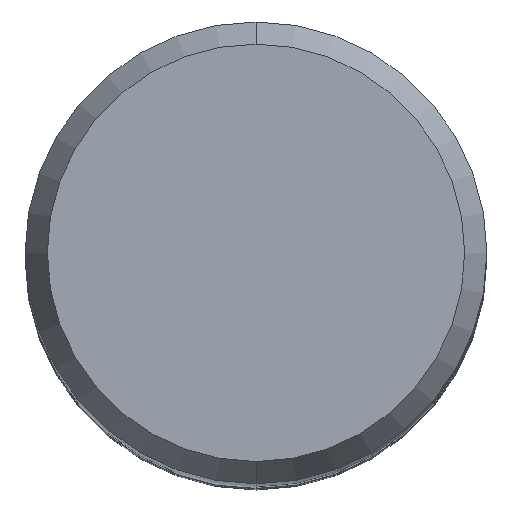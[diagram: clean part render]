
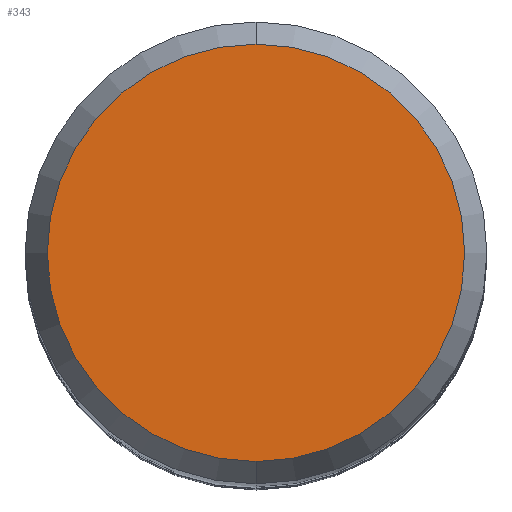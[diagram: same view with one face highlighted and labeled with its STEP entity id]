
A CAD part, top view. The second image highlights one B-rep face of the part: STEP entity #343.
In plain terms, the highlighted planar face has unit normal (0, 0, 1).
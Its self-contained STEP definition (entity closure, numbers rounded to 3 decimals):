
#343=ADVANCED_FACE('',(#766),#767,.T.);
#363=EDGE_CURVE('',#379,#469,#788,.T.);
#379=VERTEX_POINT('',#804);
#469=VERTEX_POINT('',#905);
#519=EDGE_CURVE('',#469,#379,#961,.T.);
#766=FACE_OUTER_BOUND('',#1304,.T.);
#767=PLANE('',#1305);
#788=CIRCLE('',#1357,5.423);
#804=CARTESIAN_POINT('',(0.0,5.423,0.0));
#905=CARTESIAN_POINT('',(0.,-5.423,0.0));
#961=CIRCLE('',#1669,5.423);
#1304=EDGE_LOOP('',(#2072,#2073));
#1305=AXIS2_PLACEMENT_3D('',#2074,#2075,#2076);
#1357=AXIS2_PLACEMENT_3D('',#2093,#2094,#2095);
#1669=AXIS2_PLACEMENT_3D('',#2301,#2302,#2303);
#2072=ORIENTED_EDGE('',*,*,#363,.F.);
#2073=ORIENTED_EDGE('',*,*,#519,.F.);
#2074=CARTESIAN_POINT('',(0.0,2.711,0.0));
#2075=DIRECTION('',(-0.0,0.0,1.0));
#2076=DIRECTION('',(0.0,-1.0,0.0));
#2093=CARTESIAN_POINT('',(0.0,0.0,0.0));
#2094=DIRECTION('',(0.0,0.0,-1.0));
#2095=DIRECTION('',(0.0,1.0,0.0));
#2301=CARTESIAN_POINT('',(0.0,0.0,0.0));
#2302=DIRECTION('',(0.0,0.0,-1.0));
#2303=DIRECTION('',(0.0,1.0,0.0));
